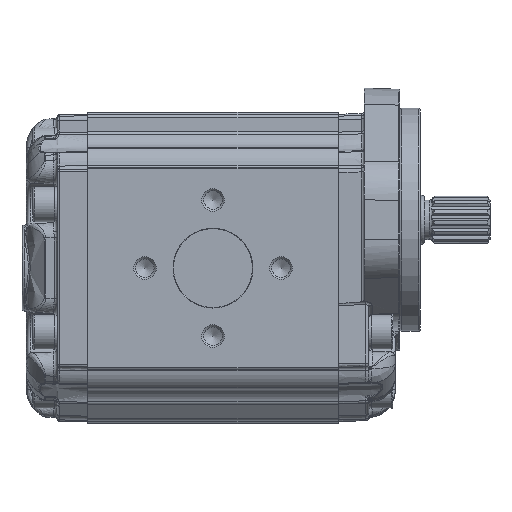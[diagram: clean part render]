
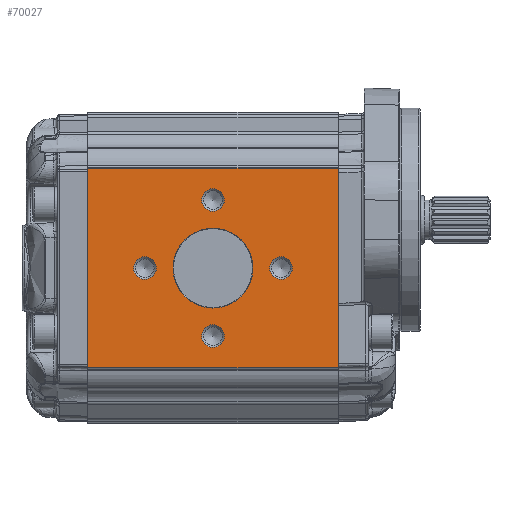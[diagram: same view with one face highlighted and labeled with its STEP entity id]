
A CAD part, left-side view. The second image highlights one B-rep face of the part: STEP entity #70027.
In plain terms, the highlighted planar face has unit normal (-1, 0, 0).
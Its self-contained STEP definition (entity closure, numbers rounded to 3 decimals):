
#8105=LINE('',#122467,#10119);
#8116=LINE('',#122551,#10130);
#8162=LINE('',#122717,#10176);
#8163=LINE('',#122718,#10177);
#10119=VECTOR('',#77549,1000.);
#10130=VECTOR('',#77624,1000.);
#10176=VECTOR('',#77802,1000.);
#10177=VECTOR('',#77803,1000.);
#16526=ORIENTED_EDGE('',*,*,#29327,.T.);
#16527=ORIENTED_EDGE('',*,*,#29328,.T.);
#16528=ORIENTED_EDGE('',*,*,#29329,.T.);
#16529=ORIENTED_EDGE('',*,*,#29330,.T.);
#16530=ORIENTED_EDGE('',*,*,#29331,.T.);
#16531=ORIENTED_EDGE('',*,*,#29202,.F.);
#16532=ORIENTED_EDGE('',*,*,#29332,.T.);
#16533=ORIENTED_EDGE('',*,*,#29244,.F.);
#16534=ORIENTED_EDGE('',*,*,#29333,.T.);
#29202=EDGE_CURVE('',#35928,#35929,#8105,.T.);
#29244=EDGE_CURVE('',#35970,#35971,#8116,.T.);
#29327=EDGE_CURVE('',#36019,#36019,#39824,.F.);
#29328=EDGE_CURVE('',#36020,#36020,#39825,.F.);
#29329=EDGE_CURVE('',#36021,#36021,#39826,.F.);
#29330=EDGE_CURVE('',#36022,#36022,#39827,.F.);
#29331=EDGE_CURVE('',#36023,#36023,#39828,.F.);
#29332=EDGE_CURVE('',#35928,#35971,#8162,.F.);
#29333=EDGE_CURVE('',#35970,#35929,#8163,.F.);
#35928=VERTEX_POINT('',#122466);
#35929=VERTEX_POINT('',#122468);
#35970=VERTEX_POINT('',#122552);
#35971=VERTEX_POINT('',#122553);
#36019=VERTEX_POINT('',#122708);
#36020=VERTEX_POINT('',#122710);
#36021=VERTEX_POINT('',#122712);
#36022=VERTEX_POINT('',#122714);
#36023=VERTEX_POINT('',#122716);
#39824=CIRCLE('',#73302,5.188);
#39825=CIRCLE('',#73303,5.188);
#39826=CIRCLE('',#73304,5.188);
#39827=CIRCLE('',#73305,5.188);
#39828=CIRCLE('',#73306,18.2);
#41152=EDGE_LOOP('',(#16526));
#41153=EDGE_LOOP('',(#16527));
#41154=EDGE_LOOP('',(#16528));
#41155=EDGE_LOOP('',(#16529));
#41156=EDGE_LOOP('',(#16530));
#41157=EDGE_LOOP('',(#16531,#16532,#16533,#16534));
#44498=FACE_BOUND('',#41152,.T.);
#44499=FACE_BOUND('',#41153,.T.);
#44500=FACE_BOUND('',#41154,.T.);
#44501=FACE_BOUND('',#41155,.T.);
#44502=FACE_BOUND('',#41156,.T.);
#44503=FACE_BOUND('',#41157,.T.);
#46937=PLANE('',#73301);
#70027=ADVANCED_FACE('',(#44498,#44499,#44500,#44501,#44502,#44503),#46937,
 .T.);
#73301=AXIS2_PLACEMENT_3D('',#122706,#77790,#77791);
#73302=AXIS2_PLACEMENT_3D('',#122707,#77792,#77793);
#73303=AXIS2_PLACEMENT_3D('',#122709,#77794,#77795);
#73304=AXIS2_PLACEMENT_3D('',#122711,#77796,#77797);
#73305=AXIS2_PLACEMENT_3D('',#122713,#77798,#77799);
#73306=AXIS2_PLACEMENT_3D('',#122715,#77800,#77801);
#77549=DIRECTION('',(0.,0.,1.));
#77624=DIRECTION('',(0.,0.,-1.));
#77790=DIRECTION('',(-1.,0.,0.));
#77791=DIRECTION('',(0.,0.,-1.));
#77792=DIRECTION('',(-1.,0.,0.));
#77793=DIRECTION('',(0.,0.,-1.));
#77794=DIRECTION('',(-1.,0.,0.));
#77795=DIRECTION('',(0.,0.,-1.));
#77796=DIRECTION('',(-1.,0.,0.));
#77797=DIRECTION('',(0.,0.,-1.));
#77798=DIRECTION('',(-1.,0.,0.));
#77799=DIRECTION('',(0.,0.,-1.));
#77800=DIRECTION('',(-1.,0.,0.));
#77801=DIRECTION('',(0.,0.,-1.));
#77802=DIRECTION('',(0.,1.,0.));
#77803=DIRECTION('',(0.,-1.,0.));
#122466=CARTESIAN_POINT('',(-57.5,114.,-45.5));
#122467=CARTESIAN_POINT('',(-57.5,114.,-91.388));
#122468=CARTESIAN_POINT('',(-57.5,114.,45.5));
#122551=CARTESIAN_POINT('',(-57.5,0.,44.978));
#122552=CARTESIAN_POINT('',(-57.5,0.,45.5));
#122553=CARTESIAN_POINT('',(-57.5,0.,-45.5));
#122706=CARTESIAN_POINT('',(-57.5,-126.279,-91.388));
#122707=CARTESIAN_POINT('',(-57.5,57.,-31.));
#122708=CARTESIAN_POINT('',(-57.5,57.,-36.188));
#122709=CARTESIAN_POINT('',(-57.5,26.,0.));
#122710=CARTESIAN_POINT('',(-57.5,26.,-5.188));
#122711=CARTESIAN_POINT('',(-57.5,57.,31.));
#122712=CARTESIAN_POINT('',(-57.5,57.,25.812));
#122713=CARTESIAN_POINT('',(-57.5,88.,0.));
#122714=CARTESIAN_POINT('',(-57.5,88.,-5.188));
#122715=CARTESIAN_POINT('',(-57.5,57.,0.));
#122716=CARTESIAN_POINT('',(-57.5,57.,-18.2));
#122717=CARTESIAN_POINT('',(-57.5,-126.279,-45.5));
#122718=CARTESIAN_POINT('',(-57.5,-126.279,45.5));
